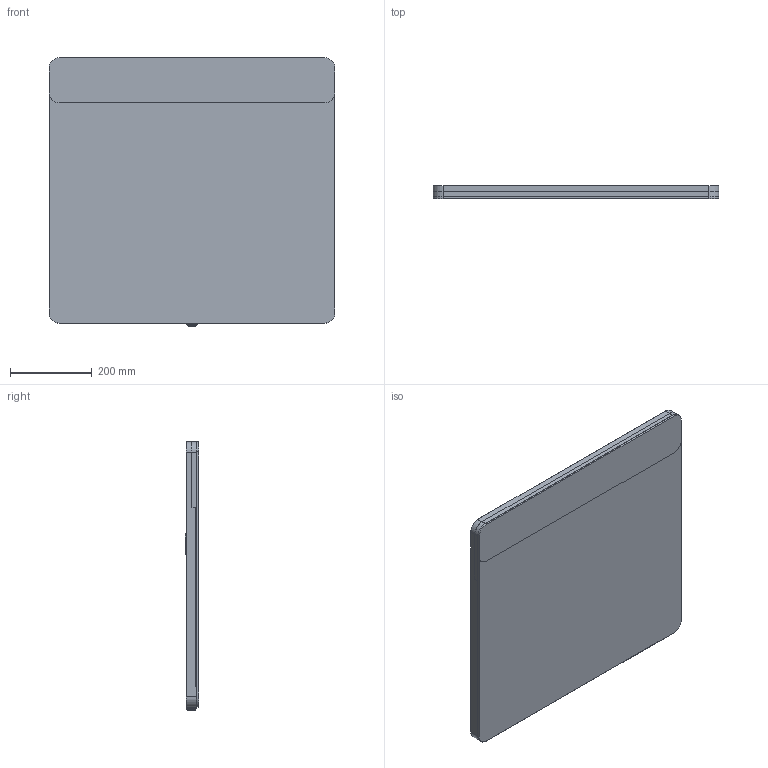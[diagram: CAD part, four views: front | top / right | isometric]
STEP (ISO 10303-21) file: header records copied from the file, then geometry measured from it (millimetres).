
FILE_DESCRIPTION(/* description */ ('STEP AP214'),/* implementation_level */ '2;1');
FILE_NAME(/* name */ 'C:\Planerdaten\Export PLA\819270000\stp\819270000.stp',/* time_stamp */ '2020-03-06T07:59:37+01:00',/* author */ (''),/* organization */ (''),/* preprocessor_version */ 'ST-DEVELOPER v16.13',/* originating_system */ 'Autodesk Inventor 2018',/* authorisation */ '');
FILE_SCHEMA (('AUTOMOTIVE_DESIGN { 1 0 10303 214 3 1 1 }'));
Length unit declared in the file: millimetre
Products named in the file (11): LiSpgl Ge+Opt B70 Bel-oben; SZYBA-LUS-700x650-M; RAMA ZEWNÊT  LUSTRA 700X650 (1); WYL-WAND-19-LED-GR (Wszystkie elementy Content Center wy³¹czo
ne); WYL-WAND-19-LED-GR; JIS B 1181 normal. Klasa 3 - Metryczny Klasa 3 normal. M16; RAM-WEW-LUS-700x650; PPR-PRO-25x20x650-AL; PPR-PRO-25x20x375-AL_2; zaslepka do profilu 25x20_4; HAK MONTA¯OWY
Assembly tree (15 placements, depth 3):
  LiSpgl Ge+Opt B70 Bel-oben
    SZYBA-LUS-700x650-M
    RAMA ZEWNÊT  LUSTRA 700X650 (1)
    WYL-WAND-19-LED-GR (Wszystkie elementy Content Center wy³¹czo
ne)
      WYL-WAND-19-LED-GR
      JIS B 1181 normal. Klasa 3 - Metryczny Klasa 3 normal. M16
    RAM-WEW-LUS-700x650
      PPR-PRO-25x20x650-AL
      PPR-PRO-25x20x375-AL_2  x2
      zaslepka do profilu 25x20_4  x4
    HAK MONTA¯OWY  x2
Bounding box: 700 x 32.01 x 657.5 mm (x, y, z)
Volume: 2697790.1 mm3; surface area: 1380232.7 mm2
Topology: 13 solids, 13 shells, 329 faces, 827 edges, 518 vertices
Faces by surface type: plane 204, cylinder 92, cone 17, sphere 16
Full cylindrical faces by diameter (mm): 4.8 x2, 6 x2, 13 x1, 15 x1, 15.5 x1, 19 x2, 19.02 x2, 22 x1
Entity records: 7924 total; most frequent: CARTESIAN_POINT 1366, DIRECTION 1306, ORIENTED_EDGE 1254, EDGE_CURVE 627, LINE 452, VECTOR 452, AXIS2_PLACEMENT_3D 427, VERTEX_POINT 415
